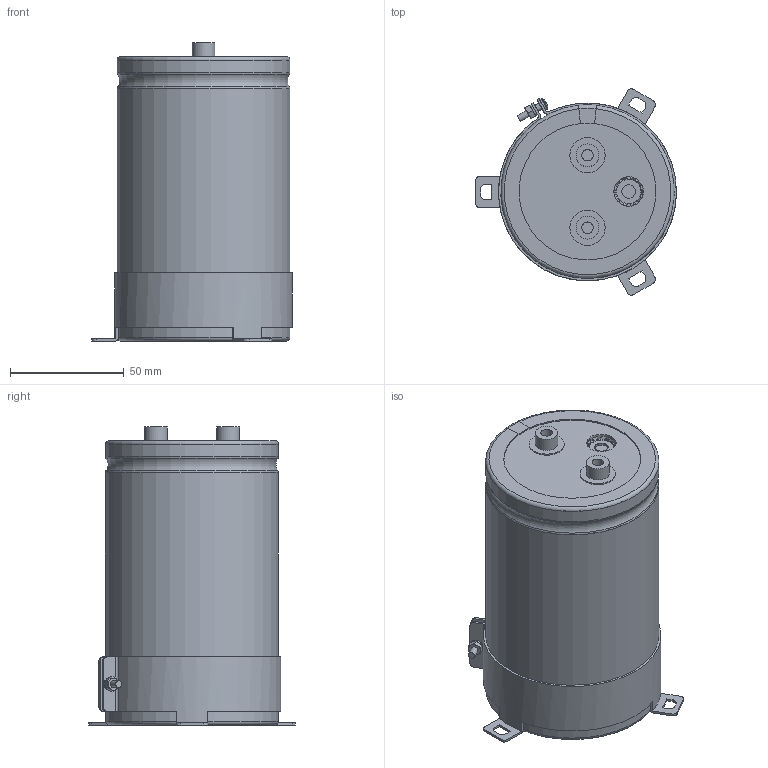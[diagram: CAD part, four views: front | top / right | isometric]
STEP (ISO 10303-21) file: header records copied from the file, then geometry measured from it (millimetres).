
FILE_DESCRIPTION(/* description */ (''),/* implementation_level */ '2;1');
FILE_NAME(/* name */ '76.2x125_Screw.stp',/* time_stamp */ '2017-09-17T13:26:52+09:00',/* author */ (''),/* organization */ (''),/* preprocessor_version */ 'ST-DEVELOPER v16',/* originating_system */ 'SIEMENS PLM Software NX 11.0',/* authorisation */ '');
FILE_SCHEMA (('AUTOMOTIVE_DESIGN { 1 0 10303 214 3 1 1 1 }'));
Length unit declared in the file: millimetre
Products named in the file (1): 76.2x125_Screw
Bounding box: 88.3 x 90.75 x 131 mm (x, y, z)
Volume: 572432.5 mm3; surface area: 119828.8 mm2
Topology: 9 solids, 9 shells, 259 faces, 642 edges, 413 vertices
Faces by surface type: plane 112, cylinder 66, torus 49, cone 31, sphere 1
Full cylindrical faces by diameter (mm): 3 x5, 5 x2, 5.5 x2, 6 x4, 8 x1, 10 x2, 13 x2, 15.5 x2, 75 x2
Entity records: 8535 total; most frequent: CARTESIAN_POINT 2182, DIRECTION 1296, ORIENTED_EDGE 1214, EDGE_CURVE 607, AXIS2_PLACEMENT_3D 541, VERTEX_POINT 408, EDGE_LOOP 317, CIRCLE 281
